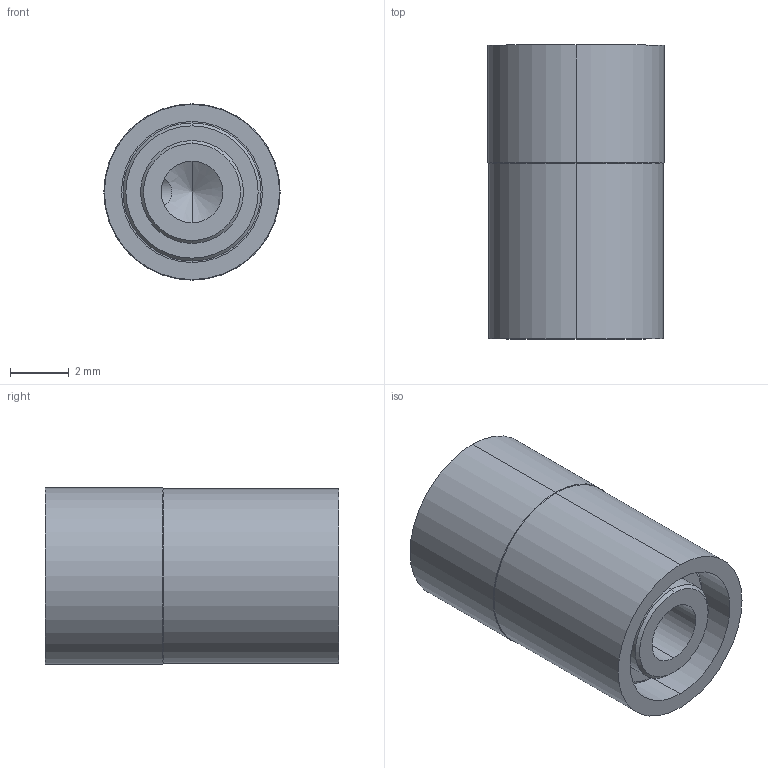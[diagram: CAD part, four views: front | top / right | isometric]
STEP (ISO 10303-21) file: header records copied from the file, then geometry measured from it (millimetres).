
FILE_DESCRIPTION (( 'STEP AP203' ), '1' );
FILE_NAME ('VA6.STEP', '2008-04-21T06:55:00', ( ' ' ), ( ' ' ), 'SwSTEP 2.0', 'SolidWorks 2005204', '' );
FILE_SCHEMA (( 'CONFIG_CONTROL_DESIGN' ));
Length unit declared in the file: millimetre
Products named in the file (1): VA6
Bounding box: 6 x 10 x 6 mm (x, y, z)
Volume: 226.5 mm3; surface area: 562.3 mm2
Topology: 2 solids, 2 shells, 40 faces, 85 edges, 51 vertices
Faces by surface type: cylinder 18, cone 14, plane 8
Entity records: 1197 total; most frequent: CARTESIAN_POINT 233, DIRECTION 204, ORIENTED_EDGE 166, AXIS2_PLACEMENT_3D 86, EDGE_CURVE 83, VERTEX_POINT 51, EDGE_LOOP 48, CIRCLE 45
